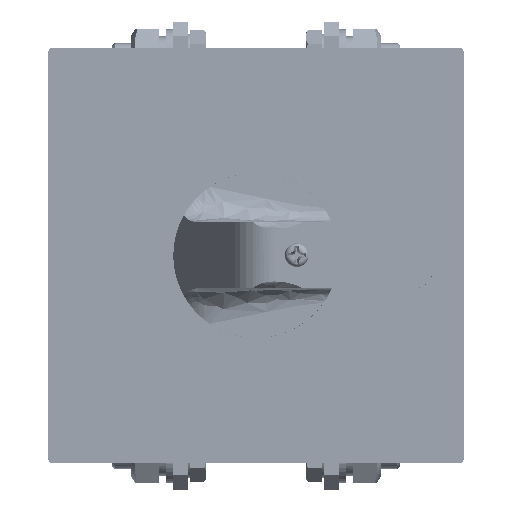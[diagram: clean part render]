
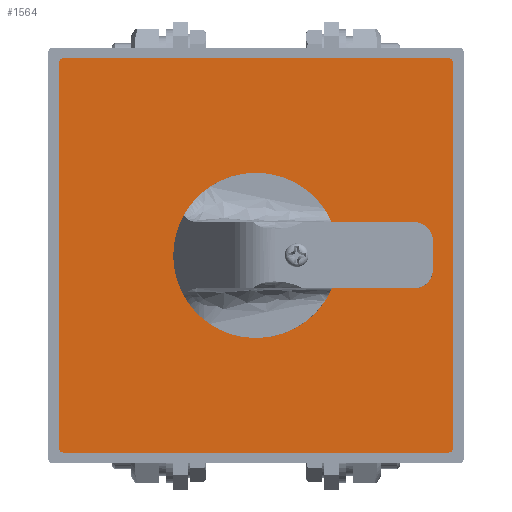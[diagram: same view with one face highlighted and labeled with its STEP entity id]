
A CAD part, top view. The second image highlights one B-rep face of the part: STEP entity #1564.
In plain terms, the highlighted planar face has unit normal (0, 0, 1).
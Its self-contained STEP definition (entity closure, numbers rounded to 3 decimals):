
#1564 = ADVANCED_FACE ( 'NONE', ( #29777, #45413 ), #207110, .T. ) ;
#5073 = ORIENTED_EDGE ( 'NONE', *, *, #221085, .T. ) ;
#5177 = ORIENTED_EDGE ( 'NONE', *, *, #207294, .T. ) ;
#5732 = LINE ( 'NONE', #145851, #159244 ) ;
#6206 = VERTEX_POINT ( 'NONE', #54059 ) ;
#16960 = VERTEX_POINT ( 'NONE', #96780 ) ;
#18753 = CARTESIAN_POINT ( 'NONE',  ( 40.75, 41.75, 116.125 ) ) ;
#19188 = CARTESIAN_POINT ( 'NONE',  ( -41.75, 40.75, 116.125 ) ) ;
#21840 = VERTEX_POINT ( 'NONE', #129965 ) ;
#24948 = DIRECTION ( 'NONE',  ( 1., 0., 0. ) ) ;
#26682 = DIRECTION ( 'NONE',  ( 0., 0., 1. ) ) ;
#29777 = FACE_OUTER_BOUND ( 'NONE', #164912, .T. ) ;
#29902 = VERTEX_POINT ( 'NONE', #80940 ) ;
#29960 = DIRECTION ( 'NONE',  ( 0., 0., 1. ) ) ;
#30812 = CARTESIAN_POINT ( 'NONE',  ( -40.75, 40.75, 116.125 ) ) ;
#30849 = ORIENTED_EDGE ( 'NONE', *, *, #237501, .F. ) ;
#31943 = CARTESIAN_POINT ( 'NONE',  ( 41.75, 40.75, 116.125 ) ) ;
#32867 = ORIENTED_EDGE ( 'NONE', *, *, #173475, .T. ) ;
#37488 = EDGE_LOOP ( 'NONE', ( #176083, #30849 ) ) ;
#44222 = AXIS2_PLACEMENT_3D ( 'NONE', #30812, #29960, #170962 ) ;
#45413 = FACE_BOUND ( 'NONE', #37488, .T. ) ;
#45969 = VERTEX_POINT ( 'NONE', #241178 ) ;
#50021 = DIRECTION ( 'NONE',  ( -1., 0., 0. ) ) ;
#50539 = CARTESIAN_POINT ( 'NONE',  ( -41.75, 40.75, 116.125 ) ) ;
#54059 = CARTESIAN_POINT ( 'NONE',  ( -41.75, -40.75, 116.125 ) ) ;
#58667 = CARTESIAN_POINT ( 'NONE',  ( -40.75, -41.75, 116.125 ) ) ;
#59613 = CARTESIAN_POINT ( 'NONE',  ( 41.75, 40.75, 116.125 ) ) ;
#61182 = VERTEX_POINT ( 'NONE', #240972 ) ;
#65918 = DIRECTION ( 'NONE',  ( -1., 0., 0. ) ) ;
#67467 = AXIS2_PLACEMENT_3D ( 'NONE', #174566, #115876, #175455 ) ;
#78674 = VERTEX_POINT ( 'NONE', #50539 ) ;
#80940 = CARTESIAN_POINT ( 'NONE',  ( 12.5, 0., 116.125 ) ) ;
#88634 = CIRCLE ( 'NONE', #67467, 12.5 ) ;
#88989 = DIRECTION ( 'NONE',  ( 0., 1., 0. ) ) ;
#90849 = CARTESIAN_POINT ( 'NONE',  ( 40.75, 40.75, 116.125 ) ) ;
#91084 = VERTEX_POINT ( 'NONE', #217515 ) ;
#94906 = EDGE_CURVE ( 'NONE', #16960, #122759, #194854, .T. ) ;
#96780 = CARTESIAN_POINT ( 'NONE',  ( 41.75, -40.75, 116.125 ) ) ;
#98971 = DIRECTION ( 'NONE',  ( 1., 0., 0. ) ) ;
#103244 = CIRCLE ( 'NONE', #44222, 1. ) ;
#106064 = AXIS2_PLACEMENT_3D ( 'NONE', #242527, #203991, #121755 ) ;
#109582 = AXIS2_PLACEMENT_3D ( 'NONE', #90849, #250228, #229127 ) ;
#110413 = CARTESIAN_POINT ( 'NONE',  ( -40.75, -40.75, 116.125 ) ) ;
#115876 = DIRECTION ( 'NONE',  ( 0., 0., 1. ) ) ;
#118877 = VECTOR ( 'NONE', #98971, 1000. ) ;
#121755 = DIRECTION ( 'NONE',  ( 1., 0., 0. ) ) ;
#122759 = VERTEX_POINT ( 'NONE', #59613 ) ;
#123261 = CARTESIAN_POINT ( 'NONE',  ( 40.75, -40.75, 116.125 ) ) ;
#129965 = CARTESIAN_POINT ( 'NONE',  ( -40.75, 41.75, 116.125 ) ) ;
#142931 = ORIENTED_EDGE ( 'NONE', *, *, #181394, .T. ) ;
#145153 = CARTESIAN_POINT ( 'NONE',  ( 40.75, 40.75, 116.125 ) ) ;
#145851 = CARTESIAN_POINT ( 'NONE',  ( -40.75, 41.75, 116.125 ) ) ;
#145980 = AXIS2_PLACEMENT_3D ( 'NONE', #145153, #26682, #24948 ) ;
#157472 = EDGE_CURVE ( 'NONE', #91084, #16960, #198027, .T. ) ;
#157872 = AXIS2_PLACEMENT_3D ( 'NONE', #123261, #181094, #165311 ) ;
#159244 = VECTOR ( 'NONE', #65918, 1000. ) ;
#164149 = EDGE_CURVE ( 'NONE', #45969, #29902, #204249, .T. ) ;
#164912 = EDGE_LOOP ( 'NONE', ( #213968, #5073, #5177, #239440, #32867, #142931, #230624, #209511 ) ) ;
#165311 = DIRECTION ( 'NONE',  ( -1., 0., 0. ) ) ;
#170962 = DIRECTION ( 'NONE',  ( -1., 0., 0. ) ) ;
#172064 = LINE ( 'NONE', #58667, #118877 ) ;
#173475 = EDGE_CURVE ( 'NONE', #6206, #61182, #215301, .T. ) ;
#174566 = CARTESIAN_POINT ( 'NONE',  ( 0., 0., 116.125 ) ) ;
#175455 = DIRECTION ( 'NONE',  ( 1., 0., 0. ) ) ;
#176083 = ORIENTED_EDGE ( 'NONE', *, *, #164149, .F. ) ;
#181094 = DIRECTION ( 'NONE',  ( 0., 0., 1. ) ) ;
#181394 = EDGE_CURVE ( 'NONE', #61182, #91084, #172064, .T. ) ;
#188750 = VERTEX_POINT ( 'NONE', #18753 ) ;
#192480 = EDGE_CURVE ( 'NONE', #78674, #6206, #249730, .T. ) ;
#194854 = LINE ( 'NONE', #31943, #207494 ) ;
#194947 = AXIS2_PLACEMENT_3D ( 'NONE', #110413, #228566, #50021 ) ;
#198027 = CIRCLE ( 'NONE', #157872, 1. ) ;
#200425 = DIRECTION ( 'NONE',  ( 0., -1., 0. ) ) ;
#203991 = DIRECTION ( 'NONE',  ( 0., 0., 1. ) ) ;
#204249 = CIRCLE ( 'NONE', #106064, 12.5 ) ;
#207110 = PLANE ( 'NONE',  #145980 ) ;
#207294 = EDGE_CURVE ( 'NONE', #21840, #78674, #103244, .T. ) ;
#207494 = VECTOR ( 'NONE', #88989, 1000. ) ;
#209511 = ORIENTED_EDGE ( 'NONE', *, *, #94906, .T. ) ;
#213968 = ORIENTED_EDGE ( 'NONE', *, *, #255612, .T. ) ;
#215301 = CIRCLE ( 'NONE', #194947, 1. ) ;
#217515 = CARTESIAN_POINT ( 'NONE',  ( 40.75, -41.75, 116.125 ) ) ;
#221085 = EDGE_CURVE ( 'NONE', #188750, #21840, #5732, .T. ) ;
#224531 = VECTOR ( 'NONE', #200425, 1000. ) ;
#228566 = DIRECTION ( 'NONE',  ( 0., 0., 1. ) ) ;
#229127 = DIRECTION ( 'NONE',  ( 1., 0., 0. ) ) ;
#230624 = ORIENTED_EDGE ( 'NONE', *, *, #157472, .T. ) ;
#237501 = EDGE_CURVE ( 'NONE', #29902, #45969, #88634, .T. ) ;
#239440 = ORIENTED_EDGE ( 'NONE', *, *, #192480, .T. ) ;
#240972 = CARTESIAN_POINT ( 'NONE',  ( -40.75, -41.75, 116.125 ) ) ;
#241178 = CARTESIAN_POINT ( 'NONE',  ( -12.5, 0., 116.125 ) ) ;
#242527 = CARTESIAN_POINT ( 'NONE',  ( 0., 0., 116.125 ) ) ;
#243585 = CIRCLE ( 'NONE', #109582, 1. ) ;
#249730 = LINE ( 'NONE', #19188, #224531 ) ;
#250228 = DIRECTION ( 'NONE',  ( 0., 0., 1. ) ) ;
#255612 = EDGE_CURVE ( 'NONE', #122759, #188750, #243585, .T. ) ;
